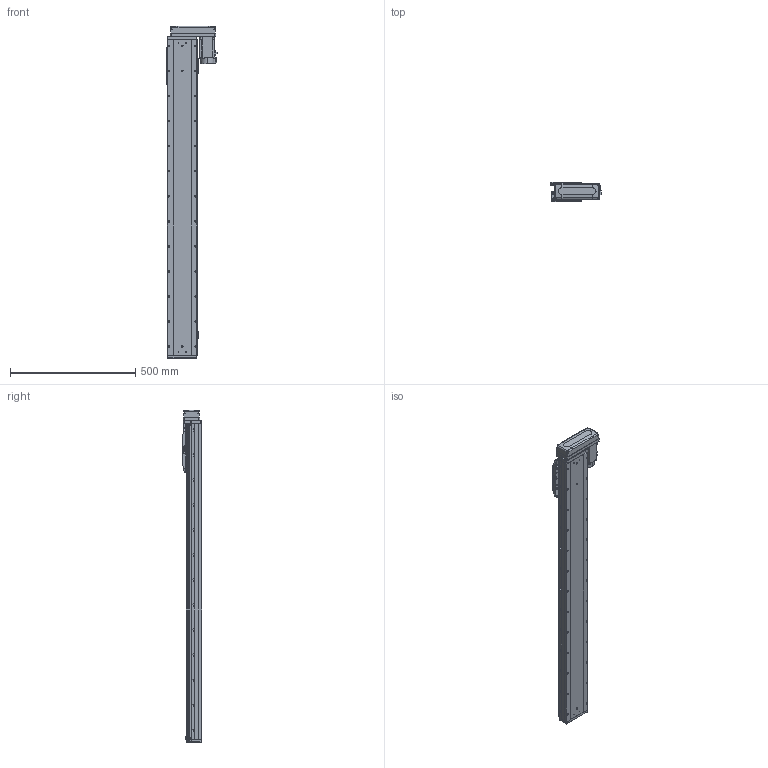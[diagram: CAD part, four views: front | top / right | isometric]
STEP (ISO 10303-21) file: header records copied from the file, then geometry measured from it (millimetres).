
FILE_DESCRIPTION (( 'STEP AP203' ), '1' );
FILE_NAME ('GTH12-1050-BL-M40-C4.step', '2023-07-04T10:39:28', ( '微软用户' ), ( '微软中国' ), 'SwSTEP 2.0', 'SolidWorks 2020', '' );
FILE_SCHEMA (( 'CONFIG_CONTROL_DESIGN' ));
Length unit declared in the file: millimetre
Products named in the file (18): GBT 70.1-M3℅6; GBT96.1-2002 3×0.8; GBT 70.1-M5×16; BTH-M3X5X6; GTH120-001_1050; GBT 70.3-M3℅8; hg-kn43j_-s100_; GTH120-003; GTH80-022; CTHA86-033_M40B; GTH120-006; GTH80-028; GTH120-027-1_GTH120-027-2; GTH120-004; GTH50-023; GTH12-1050-BL-M40-C4; GTH120-013; GTH50-024
Assembly tree (59 placements, depth 2):
  GTH12-1050-BL-M40-C4
    GTH120-001_1050
    GTH120-003
    GTH120-006
    GTH120-004
    GTH120-013
    GBT 70.1-M3℅6  x14
    GBT 70.1-M5×16  x10
    GBT 70.3-M3℅8  x4
    GTH80-022
    GTH80-028  x2
    GTH50-023  x3
    GTH50-024  x3
    GBT96.1-2002 3×0.8  x6
    BTH-M3X5X6  x8
    hg-kn43j_-s100_
    CTHA86-033_M40B
    GTH120-027-1_GTH120-027-2
Bounding box: 199.8 x 76 x 1325.5 mm (x, y, z)
Volume: 9494602.8 mm3; surface area: 807578.1 mm2
Topology: 61 solids, 61 shells, 2543 faces, 5960 edges, 3659 vertices
Faces by surface type: plane 1294, cylinder 753, cone 308, torus 174, sphere 8, bspline 6
Entity records: 48682 total; most frequent: CARTESIAN_POINT 8248, DIRECTION 8100, ORIENTED_EDGE 7530, EDGE_CURVE 3765, AXIS2_PLACEMENT_3D 2832, VECTOR 2436, LINE 2436, VERTEX_POINT 2380
